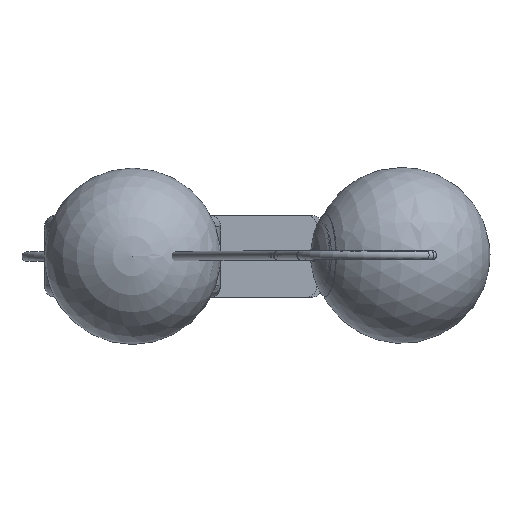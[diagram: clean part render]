
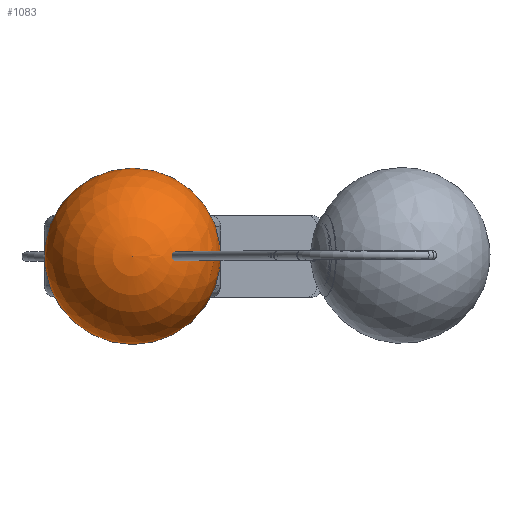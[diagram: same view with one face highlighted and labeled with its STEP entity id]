
A CAD part, top view. The second image highlights one B-rep face of the part: STEP entity #1083.
In plain terms, the highlighted spherical face has radius 150 mm.
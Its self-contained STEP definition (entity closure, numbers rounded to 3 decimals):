
#1083 = ADVANCED_FACE( '', ( #1560 ), #1561, .T. );
#1560 = FACE_OUTER_BOUND( '', #2195, .T. );
#1561 = SPHERICAL_SURFACE( '', #2196, 150. );
#2195 = EDGE_LOOP( '', ( #4588 ) );
#2196 = AXIS2_PLACEMENT_3D( '', #4589, #4590, #4591 );
#4588 = ORIENTED_EDGE( '', *, *, #5999, .T. );
#4589 = CARTESIAN_POINT( '', ( 0., 0., 145. ) );
#4590 = DIRECTION( '', ( 0., 0., -1. ) );
#4591 = DIRECTION( '', ( 1., 0., 0. ) );
#5999 = EDGE_CURVE( '', #6612, #6612, #6613, .T. );
#6612 = VERTEX_POINT( '', #8325 );
#6613 = CIRCLE( '', #8326, 56.25 );
#8325 = CARTESIAN_POINT( '', ( 56.25, 0., 5.946 ) );
#8326 = AXIS2_PLACEMENT_3D( '', #10077, #10078, #10079 );
#10077 = CARTESIAN_POINT( '', ( 0., 0., 5.946 ) );
#10078 = DIRECTION( '', ( 0., 0., 1. ) );
#10079 = DIRECTION( '', ( 1., 0., 0. ) );
